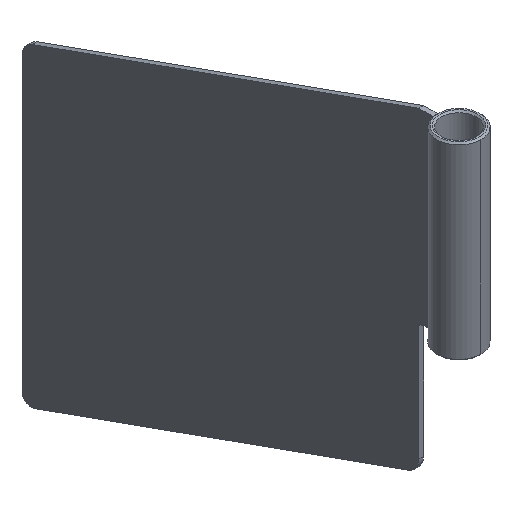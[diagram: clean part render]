
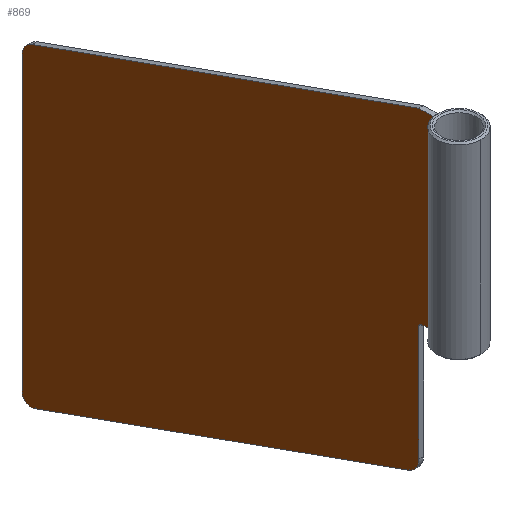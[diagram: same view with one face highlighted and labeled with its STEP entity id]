
A CAD part, isometric view. The second image highlights one B-rep face of the part: STEP entity #869.
In plain terms, the highlighted planar face has unit normal (-1, 0, 0).
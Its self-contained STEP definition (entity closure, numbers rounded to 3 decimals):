
#26=PLANE('',#951);
#71=FACE_OUTER_BOUND('',#117,.T.);
#117=EDGE_LOOP('',(#649,#650,#651,#652,#653,#654,#655,#656,#657,#658,#659,
#660,#661,#662,#663,#664,#665,#666,#667));
#164=CIRCLE('',#941,1.);
#165=CIRCLE('',#944,5.);
#166=CIRCLE('',#947,3.);
#167=CIRCLE('',#950,5.);
#220=LINE('',#1354,#298);
#222=LINE('',#1358,#300);
#226=LINE('',#1364,#304);
#228=LINE('',#1368,#306);
#230=LINE('',#1372,#308);
#234=LINE('',#1378,#312);
#237=LINE('',#1386,#315);
#240=LINE('',#1394,#318);
#243=LINE('',#1402,#321);
#245=LINE('',#1408,#323);
#246=LINE('',#1410,#324);
#247=LINE('',#1412,#325);
#248=LINE('',#1413,#326);
#249=LINE('',#1415,#327);
#250=LINE('',#1416,#328);
#298=VECTOR('',#1065,10.);
#300=VECTOR('',#1069,10.);
#304=VECTOR('',#1075,10.);
#306=VECTOR('',#1077,10.);
#308=VECTOR('',#1079,10.);
#312=VECTOR('',#1085,10.);
#315=VECTOR('',#1094,10.);
#318=VECTOR('',#1103,10.);
#321=VECTOR('',#1112,10.);
#323=VECTOR('',#1120,10.);
#324=VECTOR('',#1121,10.);
#325=VECTOR('',#1122,10.);
#326=VECTOR('',#1123,10.);
#327=VECTOR('',#1124,10.);
#328=VECTOR('',#1125,10.);
#390=VERTEX_POINT('',#1351);
#391=VERTEX_POINT('',#1353);
#392=VERTEX_POINT('',#1357);
#393=VERTEX_POINT('',#1363);
#394=VERTEX_POINT('',#1365);
#395=VERTEX_POINT('',#1367);
#396=VERTEX_POINT('',#1369);
#397=VERTEX_POINT('',#1371);
#398=VERTEX_POINT('',#1377);
#399=VERTEX_POINT('',#1381);
#400=VERTEX_POINT('',#1385);
#401=VERTEX_POINT('',#1389);
#402=VERTEX_POINT('',#1393);
#403=VERTEX_POINT('',#1397);
#404=VERTEX_POINT('',#1401);
#405=VERTEX_POINT('',#1407);
#406=VERTEX_POINT('',#1409);
#407=VERTEX_POINT('',#1411);
#408=VERTEX_POINT('',#1414);
#470=EDGE_CURVE('',#391,#390,#220,.T.);
#472=EDGE_CURVE('',#392,#391,#222,.T.);
#476=EDGE_CURVE('',#393,#392,#226,.T.);
#478=EDGE_CURVE('',#395,#394,#228,.T.);
#480=EDGE_CURVE('',#397,#396,#230,.T.);
#484=EDGE_CURVE('',#398,#397,#234,.T.);
#486=EDGE_CURVE('',#399,#398,#164,.T.);
#488=EDGE_CURVE('',#400,#399,#237,.T.);
#490=EDGE_CURVE('',#401,#400,#165,.T.);
#492=EDGE_CURVE('',#402,#401,#240,.T.);
#494=EDGE_CURVE('',#403,#402,#166,.T.);
#496=EDGE_CURVE('',#404,#403,#243,.T.);
#498=EDGE_CURVE('',#390,#404,#167,.T.);
#499=EDGE_CURVE('',#405,#395,#245,.T.);
#500=EDGE_CURVE('',#394,#406,#246,.T.);
#501=EDGE_CURVE('',#406,#407,#247,.T.);
#502=EDGE_CURVE('',#407,#393,#248,.T.);
#503=EDGE_CURVE('',#396,#408,#249,.T.);
#504=EDGE_CURVE('',#408,#405,#250,.T.);
#649=ORIENTED_EDGE('',*,*,#499,.T.);
#650=ORIENTED_EDGE('',*,*,#478,.T.);
#651=ORIENTED_EDGE('',*,*,#500,.T.);
#652=ORIENTED_EDGE('',*,*,#501,.T.);
#653=ORIENTED_EDGE('',*,*,#502,.T.);
#654=ORIENTED_EDGE('',*,*,#476,.T.);
#655=ORIENTED_EDGE('',*,*,#472,.T.);
#656=ORIENTED_EDGE('',*,*,#470,.T.);
#657=ORIENTED_EDGE('',*,*,#498,.T.);
#658=ORIENTED_EDGE('',*,*,#496,.T.);
#659=ORIENTED_EDGE('',*,*,#494,.T.);
#660=ORIENTED_EDGE('',*,*,#492,.T.);
#661=ORIENTED_EDGE('',*,*,#490,.T.);
#662=ORIENTED_EDGE('',*,*,#488,.T.);
#663=ORIENTED_EDGE('',*,*,#486,.T.);
#664=ORIENTED_EDGE('',*,*,#484,.T.);
#665=ORIENTED_EDGE('',*,*,#480,.T.);
#666=ORIENTED_EDGE('',*,*,#503,.T.);
#667=ORIENTED_EDGE('',*,*,#504,.T.);
#869=ADVANCED_FACE('',(#71),#26,.T.);
#941=AXIS2_PLACEMENT_3D('',#1382,#1089,#1090);
#944=AXIS2_PLACEMENT_3D('',#1390,#1098,#1099);
#947=AXIS2_PLACEMENT_3D('',#1398,#1107,#1108);
#950=AXIS2_PLACEMENT_3D('',#1405,#1116,#1117);
#951=AXIS2_PLACEMENT_3D('',#1406,#1118,#1119);
#1065=DIRECTION('',(0.,0.942,-0.336));
#1069=DIRECTION('',(0.,1.,0.));
#1075=DIRECTION('',(0.,0.,1.));
#1077=DIRECTION('',(0.,0.,1.));
#1079=DIRECTION('',(0.,0.,1.));
#1085=DIRECTION('',(0.,-1.,0.));
#1089=DIRECTION('center_axis',(1.,0.,0.));
#1090=DIRECTION('ref_axis',(0.,0.,-1.));
#1094=DIRECTION('',(0.,0.,1.));
#1098=DIRECTION('center_axis',(-1.,0.,0.));
#1099=DIRECTION('ref_axis',(0.,-0.336,-0.942));
#1103=DIRECTION('',(0.,-0.942,0.336));
#1107=DIRECTION('center_axis',(-1.,0.,0.));
#1108=DIRECTION('ref_axis',(0.,1.,0.));
#1112=DIRECTION('',(0.,0.,-1.));
#1116=DIRECTION('center_axis',(-1.,0.,0.));
#1117=DIRECTION('ref_axis',(0.,0.336,0.942));
#1118=DIRECTION('center_axis',(-1.,0.,0.));
#1119=DIRECTION('ref_axis',(0.,0.,1.));
#1120=DIRECTION('',(0.,-1.,0.));
#1121=DIRECTION('',(0.,1.,0.));
#1122=DIRECTION('',(0.,0.,1.));
#1123=DIRECTION('',(0.,-1.,0.));
#1124=DIRECTION('',(0.,1.,0.));
#1125=DIRECTION('',(0.,0.,1.));
#1351=CARTESIAN_POINT('',(-0.75,134.682,-29.815));
#1353=CARTESIAN_POINT('',(-0.75,12.,14.));
#1354=CARTESIAN_POINT('',(-0.75,12.,14.));
#1357=CARTESIAN_POINT('',(-0.75,7.,14.));
#1358=CARTESIAN_POINT('',(-0.75,7.,14.));
#1363=CARTESIAN_POINT('',(-0.75,7.,4.));
#1364=CARTESIAN_POINT('',(-0.75,7.,-45.));
#1365=CARTESIAN_POINT('',(-0.75,7.,-9.));
#1367=CARTESIAN_POINT('',(-0.75,7.,-28.));
#1368=CARTESIAN_POINT('',(-0.75,7.,-45.));
#1369=CARTESIAN_POINT('',(-0.75,7.,-41.));
#1371=CARTESIAN_POINT('',(-0.75,7.,-45.));
#1372=CARTESIAN_POINT('',(-0.75,7.,-45.));
#1377=CARTESIAN_POINT('',(-0.75,11.,-45.));
#1378=CARTESIAN_POINT('',(-0.75,11.,-45.));
#1381=CARTESIAN_POINT('',(-0.75,12.,-46.));
#1382=CARTESIAN_POINT('Origin',(-0.75,11.,-46.));
#1385=CARTESIAN_POINT('',(-0.75,12.,-82.476));
#1386=CARTESIAN_POINT('',(-0.75,12.,-82.476));
#1389=CARTESIAN_POINT('',(-0.75,15.318,-87.185));
#1390=CARTESIAN_POINT('Origin',(-0.75,17.,-82.476));
#1393=CARTESIAN_POINT('',(-0.75,133.991,-129.568));
#1394=CARTESIAN_POINT('',(-0.75,133.991,-129.568));
#1397=CARTESIAN_POINT('',(-0.75,138.,-126.743));
#1398=CARTESIAN_POINT('Origin',(-0.75,135.,-126.743));
#1401=CARTESIAN_POINT('',(-0.75,138.,-34.524));
#1402=CARTESIAN_POINT('',(-0.75,138.,-34.524));
#1405=CARTESIAN_POINT('Origin',(-0.75,133.,-34.524));
#1406=CARTESIAN_POINT('Origin',(-0.75,72.5,-57.871));
#1407=CARTESIAN_POINT('',(-0.75,7.667,-28.));
#1408=CARTESIAN_POINT('',(-0.75,39.73,-28.));
#1409=CARTESIAN_POINT('',(-0.75,7.667,-9.));
#1410=CARTESIAN_POINT('',(-0.75,39.73,-9.));
#1411=CARTESIAN_POINT('',(-0.75,7.667,4.));
#1412=CARTESIAN_POINT('',(-0.75,7.667,-9.));
#1413=CARTESIAN_POINT('',(-0.75,39.73,4.));
#1414=CARTESIAN_POINT('',(-0.75,7.667,-41.));
#1415=CARTESIAN_POINT('',(-0.75,39.73,-41.));
#1416=CARTESIAN_POINT('',(-0.75,7.667,-41.));
